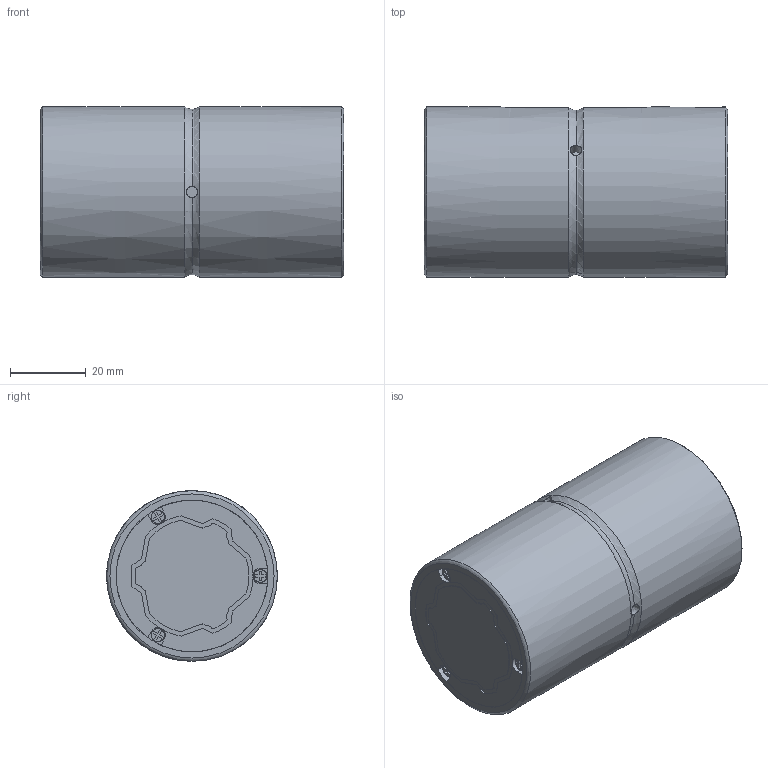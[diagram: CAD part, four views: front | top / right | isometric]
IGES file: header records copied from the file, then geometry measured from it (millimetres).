
Start section: Data from Parasolid IGES Translator 26.0.171, Copyright(c) 2006 Siemens PLM Software. All Rights Reserved.
Global section: file name: SLS30L180(00).igs; native system: By Siemens PLM Incorporated; preprocessor: XPlus GENERIC/IGES 26.0.171; author: Noname; organization: Noname; date: 20240523.114643; units: millimetre
Bounding box: 80 x 45 x 45 mm (x, y, z)
Surface area: 30711.2 mm2 (no closed solid volume)
Topology: 0 solids, 0 shells, 299 faces, 1666 edges, 1634 vertices
Faces by surface type: extrusion 180, revolution 119
